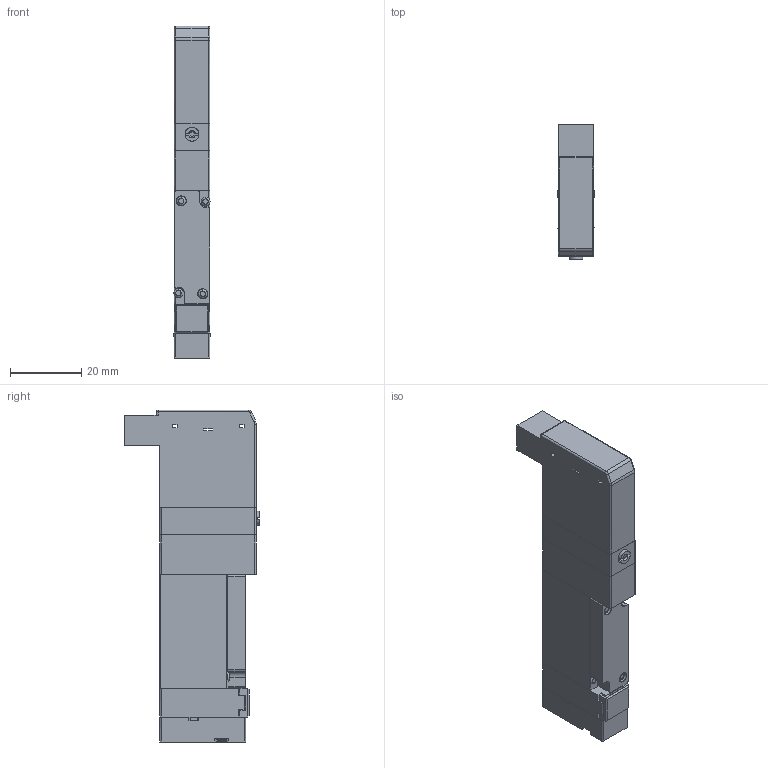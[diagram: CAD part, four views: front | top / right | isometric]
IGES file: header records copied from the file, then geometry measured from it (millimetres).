
Start section: ------------------------------------------------------------------------
Global section: file name: D:\ICADMX\tmp\trans3d_spg\CVICAD02.18204.F10T1-A1_8455.igs; native system: spGate; preprocessor: ver12.6.6; author: Unknown; organization: Unknown; date: 200901.142349; units: millimetre
Bounding box: 10.2 x 38 x 93 mm (x, y, z)
Surface area: 11209.4 mm2 (no closed solid volume)
Topology: 0 solids, 0 shells, 249 faces, 1298 edges, 1282 vertices
Faces by surface type: bspline 249
